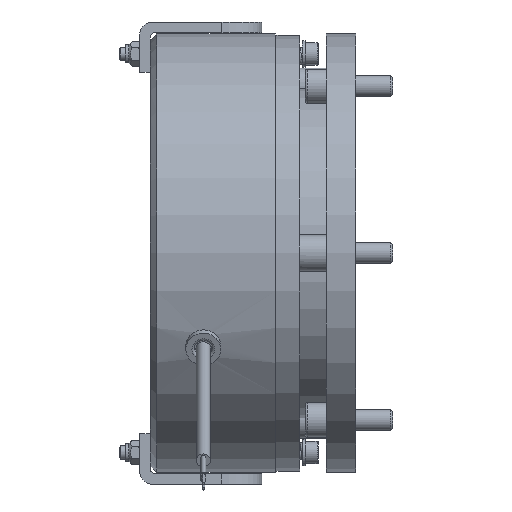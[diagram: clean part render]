
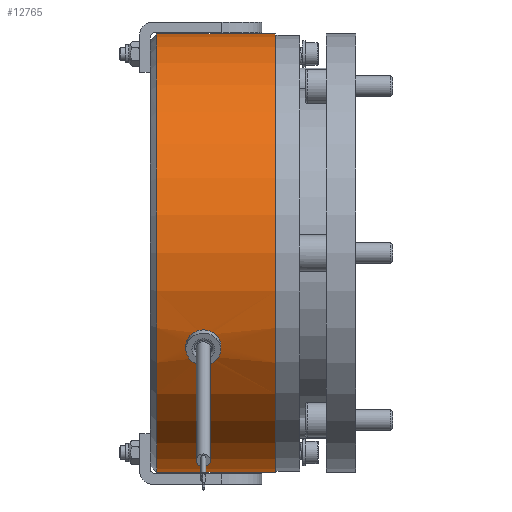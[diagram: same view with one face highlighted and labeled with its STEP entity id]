
A CAD part, front view. The second image highlights one B-rep face of the part: STEP entity #12765.
In plain terms, the highlighted cylindrical face has radius 82.5 mm (diameter 165 mm), a full revolution.
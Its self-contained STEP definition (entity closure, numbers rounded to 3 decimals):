
#484=B_SPLINE_CURVE_WITH_KNOTS('',3,(#22809,#22810,#22811,#22812,#22813,
#22814,#22815,#22816,#22817,#22818,#22819,#22820,#22821,#22822,#22823,#22824,
#22825,#22826),.UNSPECIFIED.,.F.,.F.,(4,2,2,2,2,2,2,2,4),(0.767,
0.959,1.151,1.343,1.535,1.726,
1.918,2.11,2.302),.UNSPECIFIED.);
#485=B_SPLINE_CURVE_WITH_KNOTS('',3,(#22829,#22830,#22831,#22832,#22833,
#22834,#22835,#22836,#22837,#22838,#22839,#22840,#22841,#22842,#22843,#22844,
#22845,#22846,#22847),.UNSPECIFIED.,.F.,.F.,(4,2,2,2,3,2,2,2,4),(2.302,
2.494,2.686,2.878,3.069,3.261,
3.453,3.645,3.837),.UNSPECIFIED.);
#823=CYLINDRICAL_SURFACE('',#14030,82.5);
#930=FACE_BOUND('',#2925,.T.);
#1530=CIRCLE('',#14031,82.5);
#1531=CIRCLE('',#14032,82.5);
#1532=CIRCLE('',#14033,82.5);
#2199=FACE_OUTER_BOUND('',#2924,.T.);
#2924=EDGE_LOOP('',(#10599,#10600,#10601,#10602,#10603));
#2925=EDGE_LOOP('',(#10604,#10605,#10606,#10607,#10608,#10609));
#3729=LINE('',#22926,#4378);
#3730=LINE('',#22928,#4379);
#3731=LINE('',#22929,#4380);
#4378=VECTOR('',#17004,82.5);
#4379=VECTOR('',#17007,10.);
#4380=VECTOR('',#17008,10.);
#5529=VERTEX_POINT('',#22807);
#5530=VERTEX_POINT('',#22808);
#5531=VERTEX_POINT('',#22850);
#5532=VERTEX_POINT('',#22852);
#5543=VERTEX_POINT('',#22921);
#5544=VERTEX_POINT('',#22922);
#5545=VERTEX_POINT('',#22925);
#7255=EDGE_CURVE('',#5529,#5530,#484,.T.);
#7257=EDGE_CURVE('',#5530,#5529,#485,.T.);
#7276=EDGE_CURVE('',#5543,#5544,#1530,.T.);
#7277=EDGE_CURVE('',#5544,#5543,#1531,.T.);
#7278=EDGE_CURVE('',#5544,#5545,#3729,.T.);
#7279=EDGE_CURVE('',#5545,#5545,#1532,.T.);
#7280=EDGE_CURVE('',#5530,#5532,#3730,.T.);
#7281=EDGE_CURVE('',#5531,#5529,#3731,.T.);
#10599=ORIENTED_EDGE('',*,*,#7276,.F.);
#10600=ORIENTED_EDGE('',*,*,#7277,.F.);
#10601=ORIENTED_EDGE('',*,*,#7278,.T.);
#10602=ORIENTED_EDGE('',*,*,#7279,.F.);
#10603=ORIENTED_EDGE('',*,*,#7278,.F.);
#10604=ORIENTED_EDGE('',*,*,#7280,.T.);
#10605=ORIENTED_EDGE('',*,*,#7280,.F.);
#10606=ORIENTED_EDGE('',*,*,#7257,.T.);
#10607=ORIENTED_EDGE('',*,*,#7281,.F.);
#10608=ORIENTED_EDGE('',*,*,#7281,.T.);
#10609=ORIENTED_EDGE('',*,*,#7255,.T.);
#12765=ADVANCED_FACE('',(#2199,#930),#823,.T.);
#14030=AXIS2_PLACEMENT_3D('',#22920,#16998,#16999);
#14031=AXIS2_PLACEMENT_3D('',#22923,#17000,#17001);
#14032=AXIS2_PLACEMENT_3D('',#22924,#17002,#17003);
#14033=AXIS2_PLACEMENT_3D('',#22927,#17005,#17006);
#16998=DIRECTION('center_axis',(-1.,0.,0.));
#16999=DIRECTION('ref_axis',(0.,0.,-1.));
#17000=DIRECTION('center_axis',(-1.,0.,0.));
#17001=DIRECTION('ref_axis',(0.,-1.,0.));
#17002=DIRECTION('center_axis',(-1.,0.,0.));
#17003=DIRECTION('ref_axis',(0.,-1.,0.));
#17004=DIRECTION('',(1.,0.,0.));
#17005=DIRECTION('center_axis',(1.,0.,0.));
#17006=DIRECTION('ref_axis',(0.,0.,-1.));
#17007=DIRECTION('',(-1.,0.,0.));
#17008=DIRECTION('',(-1.,0.,0.));
#22807=CARTESIAN_POINT('',(-21.9,-74.77,-34.866));
#22808=CARTESIAN_POINT('',(-32.1,-74.77,-34.866));
#22809=CARTESIAN_POINT('Ctrl Pts',(-21.9,-74.77,-34.866));
#22810=CARTESIAN_POINT('Ctrl Pts',(-21.9,-74.5,-35.446));
#22811=CARTESIAN_POINT('Ctrl Pts',(-22.029,-74.204,
-36.06));
#22812=CARTESIAN_POINT('Ctrl Pts',(-22.551,-73.648,
-37.184));
#22813=CARTESIAN_POINT('Ctrl Pts',(-22.944,-73.387,-37.693));
#22814=CARTESIAN_POINT('Ctrl Pts',(-23.851,-72.971,-38.493));
#22815=CARTESIAN_POINT('Ctrl Pts',(-24.424,-72.787,
-38.838));
#22816=CARTESIAN_POINT('Ctrl Pts',(-25.679,-72.541,
-39.294));
#22817=CARTESIAN_POINT('Ctrl Pts',(-26.361,-72.48,-39.406));
#22818=CARTESIAN_POINT('Ctrl Pts',(-27.639,-72.48,
-39.406));
#22819=CARTESIAN_POINT('Ctrl Pts',(-28.321,-72.541,
-39.294));
#22820=CARTESIAN_POINT('Ctrl Pts',(-29.576,-72.787,-38.838));
#22821=CARTESIAN_POINT('Ctrl Pts',(-30.149,-72.971,-38.493));
#22822=CARTESIAN_POINT('Ctrl Pts',(-31.056,-73.387,
-37.693));
#22823=CARTESIAN_POINT('Ctrl Pts',(-31.449,-73.648,
-37.184));
#22824=CARTESIAN_POINT('Ctrl Pts',(-31.971,-74.204,
-36.06));
#22825=CARTESIAN_POINT('Ctrl Pts',(-32.1,-74.5,
-35.446));
#22826=CARTESIAN_POINT('Ctrl Pts',(-32.1,-74.77,
-34.866));
#22829=CARTESIAN_POINT('Ctrl Pts',(-32.1,-74.77,
-34.866));
#22830=CARTESIAN_POINT('Ctrl Pts',(-32.1,-75.041,
-34.286));
#22831=CARTESIAN_POINT('Ctrl Pts',(-31.971,-75.322,
-33.665));
#22832=CARTESIAN_POINT('Ctrl Pts',(-31.449,-75.824,
-32.516));
#22833=CARTESIAN_POINT('Ctrl Pts',(-31.056,-76.047,
-31.989));
#22834=CARTESIAN_POINT('Ctrl Pts',(-30.149,-76.392,
-31.156));
#22835=CARTESIAN_POINT('Ctrl Pts',(-29.576,-76.538,-30.793));
#22836=CARTESIAN_POINT('Ctrl Pts',(-28.321,-76.73,
-30.312));
#22837=CARTESIAN_POINT('Ctrl Pts',(-27.639,-76.776,
-30.193));
#22838=CARTESIAN_POINT('Ctrl Pts',(-27.,-76.776,-30.193));
#22839=CARTESIAN_POINT('Ctrl Pts',(-26.361,-76.776,-30.193));
#22840=CARTESIAN_POINT('Ctrl Pts',(-25.679,-76.73,
-30.312));
#22841=CARTESIAN_POINT('Ctrl Pts',(-24.424,-76.538,
-30.793));
#22842=CARTESIAN_POINT('Ctrl Pts',(-23.851,-76.392,
-31.156));
#22843=CARTESIAN_POINT('Ctrl Pts',(-22.944,-76.047,-31.989));
#22844=CARTESIAN_POINT('Ctrl Pts',(-22.551,-75.824,
-32.516));
#22845=CARTESIAN_POINT('Ctrl Pts',(-22.029,-75.322,
-33.665));
#22846=CARTESIAN_POINT('Ctrl Pts',(-21.9,-75.041,-34.286));
#22847=CARTESIAN_POINT('Ctrl Pts',(-21.9,-74.77,-34.866));
#22850=CARTESIAN_POINT('',(-20.4,-74.77,-34.866));
#22852=CARTESIAN_POINT('',(-33.6,-74.77,-34.866));
#22920=CARTESIAN_POINT('Origin',(0.,0.,0.));
#22921=CARTESIAN_POINT('',(-44.5,82.5,0.));
#22922=CARTESIAN_POINT('',(-44.5,0.,82.5));
#22923=CARTESIAN_POINT('Origin',(-44.5,0.,0.));
#22924=CARTESIAN_POINT('Origin',(-44.5,0.,0.));
#22925=CARTESIAN_POINT('',(0.,0.,82.5));
#22926=CARTESIAN_POINT('',(0.,0.,82.5));
#22927=CARTESIAN_POINT('Origin',(0.,0.,0.));
#22928=CARTESIAN_POINT('',(0.,-74.77,-34.866));
#22929=CARTESIAN_POINT('',(0.,-74.77,-34.866));
